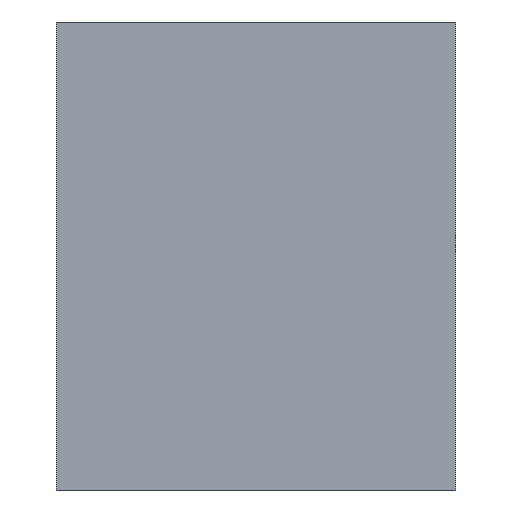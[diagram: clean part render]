
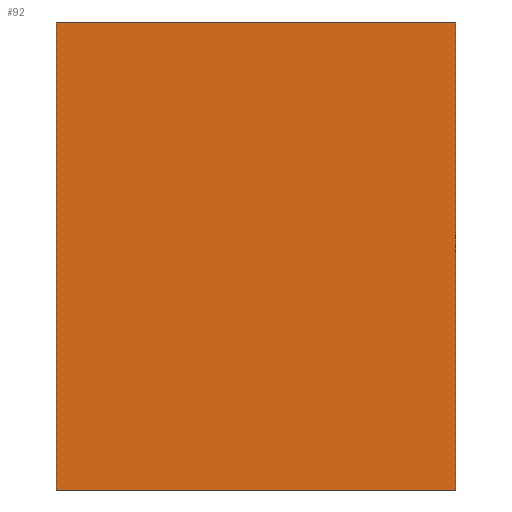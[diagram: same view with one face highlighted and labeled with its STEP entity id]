
A CAD part, top view. The second image highlights one B-rep face of the part: STEP entity #92.
In plain terms, the highlighted planar face has unit normal (0, 0, 1).
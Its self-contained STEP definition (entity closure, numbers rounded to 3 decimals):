
#53=CARTESIAN_POINT('Axis2P3D Location',(0.,0.,0.)) ;
#58=CARTESIAN_POINT('Line Origine',(58.5,0.,0.)) ;
#62=CARTESIAN_POINT('Vertex',(0.,0.,0.)) ;
#64=CARTESIAN_POINT('Vertex',(117.,0.,0.)) ;
#67=CARTESIAN_POINT('Line Origine',(117.,68.5,0.)) ;
#71=CARTESIAN_POINT('Vertex',(117.,137.,0.)) ;
#74=CARTESIAN_POINT('Line Origine',(58.5,137.,0.)) ;
#78=CARTESIAN_POINT('Vertex',(0.,137.,0.)) ;
#81=CARTESIAN_POINT('Line Origine',(0.,68.5,0.)) ;
#54=DIRECTION('Axis2P3D Direction',(0.,0.,1.)) ;
#55=DIRECTION('Axis2P3D XDirection',(1.,0.,0.)) ;
#59=DIRECTION('Vector Direction',(1.,0.,0.)) ;
#68=DIRECTION('Vector Direction',(0.,1.,0.)) ;
#75=DIRECTION('Vector Direction',(-1.,0.,0.)) ;
#82=DIRECTION('Vector Direction',(0.,-1.,0.)) ;
#56=AXIS2_PLACEMENT_3D('Plane Axis2P3D',#53,#54,#55) ;
#87=ORIENTED_EDGE('',*,*,#66,.T.) ;
#88=ORIENTED_EDGE('',*,*,#73,.T.) ;
#89=ORIENTED_EDGE('',*,*,#80,.T.) ;
#90=ORIENTED_EDGE('',*,*,#85,.T.) ;
#60=VECTOR('Line Direction',#59,1.) ;
#69=VECTOR('Line Direction',#68,1.) ;
#76=VECTOR('Line Direction',#75,1.) ;
#83=VECTOR('Line Direction',#82,1.) ;
#92=ADVANCED_FACE('Fill.1',(#91),#57,.T.) ;
#66=EDGE_CURVE('',#63,#65,#61,.T.) ;
#73=EDGE_CURVE('',#65,#72,#70,.T.) ;
#80=EDGE_CURVE('',#72,#79,#77,.T.) ;
#85=EDGE_CURVE('',#79,#63,#84,.T.) ;
#86=EDGE_LOOP('',(#87,#88,#89,#90)) ;
#91=FACE_OUTER_BOUND('',#86,.T.) ;
#61=LINE('Line',#58,#60) ;
#70=LINE('Line',#67,#69) ;
#77=LINE('Line',#74,#76) ;
#84=LINE('Line',#81,#83) ;
#57=PLANE('',#56) ;
#63=VERTEX_POINT('',#62) ;
#65=VERTEX_POINT('',#64) ;
#72=VERTEX_POINT('',#71) ;
#79=VERTEX_POINT('',#78) ;
